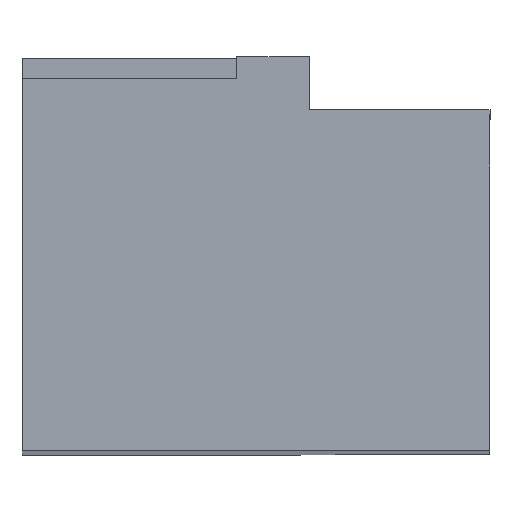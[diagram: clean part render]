
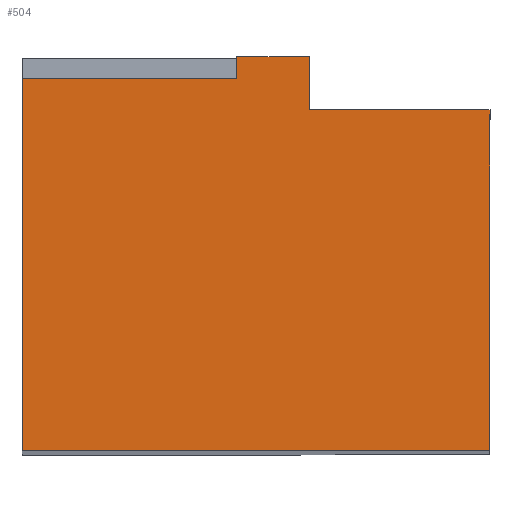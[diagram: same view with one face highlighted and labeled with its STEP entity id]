
A CAD part, top view. The second image highlights one B-rep face of the part: STEP entity #504.
In plain terms, the highlighted planar face has unit normal (0, 0, 1).
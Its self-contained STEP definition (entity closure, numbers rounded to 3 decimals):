
#2 = VERTEX_POINT ( 'NONE', #37 ) ;
#32 = VERTEX_POINT ( 'NONE', #75 ) ;
#36 = VERTEX_POINT ( 'NONE', #77 ) ;
#37 = CARTESIAN_POINT ( 'NONE',  ( 9.5, -1.5, 82.1 ) ) ;
#45 = VERTEX_POINT ( 'NONE', #121 ) ;
#47 = VERTEX_POINT ( 'NONE', #119 ) ;
#54 = VERTEX_POINT ( 'NONE', #112 ) ;
#57 = VERTEX_POINT ( 'NONE', #108 ) ;
#58 = VERTEX_POINT ( 'NONE', #109 ) ;
#75 = CARTESIAN_POINT ( 'NONE',  ( 9.5, 1., 82.1 ) ) ;
#77 = CARTESIAN_POINT ( 'NONE',  ( -4., -17.5, 82.1 ) ) ;
#96 = CARTESIAN_POINT ( 'NONE',  ( 9.5, 1., 82.1 ) ) ;
#108 = CARTESIAN_POINT ( 'NONE',  ( 18., -17.5, 82.1 ) ) ;
#109 = CARTESIAN_POINT ( 'NONE',  ( 18., -1.5, 82.1 ) ) ;
#112 = CARTESIAN_POINT ( 'NONE',  ( 6.1, 0., 82.1 ) ) ;
#119 = CARTESIAN_POINT ( 'NONE',  ( -4., 0., 82.1 ) ) ;
#121 = CARTESIAN_POINT ( 'NONE',  ( 6.1, 1., 82.1 ) ) ;
#123 = DIRECTION ( 'NONE',  ( 0., 1., 0. ) ) ;
#128 = CARTESIAN_POINT ( 'NONE',  ( -4., -17.5, 82.1 ) ) ;
#130 = DIRECTION ( 'NONE',  ( 0., 1., 0. ) ) ;
#140 = DIRECTION ( 'NONE',  ( 0., -1., 0. ) ) ;
#144 = CARTESIAN_POINT ( 'NONE',  ( 18., -1.5, 82.1 ) ) ;
#145 = CARTESIAN_POINT ( 'NONE',  ( 6.1, 1., 82.1 ) ) ;
#148 = DIRECTION ( 'NONE',  ( -1., 0., 0. ) ) ;
#158 = DIRECTION ( 'NONE',  ( 1., 0., 0. ) ) ;
#164 = CARTESIAN_POINT ( 'NONE',  ( 18., -17.5, 82.1 ) ) ;
#211 = CARTESIAN_POINT ( 'NONE',  ( 6.1, -16.5, 82.1 ) ) ;
#212 = DIRECTION ( 'NONE',  ( -1., 0., 0. ) ) ;
#214 = CARTESIAN_POINT ( 'NONE',  ( 6.1, 0., 82.1 ) ) ;
#222 = DIRECTION ( 'NONE',  ( 0., -1., 0. ) ) ;
#253 = AXIS2_PLACEMENT_3D ( 'NONE', #464, #470, #468 ) ;
#254 = EDGE_CURVE ( 'NONE', #2, #32, #880, .T. ) ;
#269 = EDGE_CURVE ( 'NONE', #47, #36, #878, .T. ) ;
#275 = EDGE_CURVE ( 'NONE', #57, #58, #885, .T. ) ;
#279 = EDGE_CURVE ( 'NONE', #32, #45, #572, .T. ) ;
#308 = EDGE_CURVE ( 'NONE', #36, #57, #563, .T. ) ;
#344 = EDGE_CURVE ( 'NONE', #54, #47, #899, .T. ) ;
#346 = EDGE_CURVE ( 'NONE', #45, #54, #571, .T. ) ;
#366 = EDGE_CURVE ( 'NONE', #58, #2, #865, .T. ) ;
#464 = CARTESIAN_POINT ( 'NONE',  ( 18., -17.5, 82.1 ) ) ;
#468 = DIRECTION ( 'NONE',  ( 0., -1., 0. ) ) ;
#469 = PLANE ( 'NONE',  #253 ) ;
#470 = DIRECTION ( 'NONE',  ( 0., 0., -1. ) ) ;
#504 = ADVANCED_FACE ( 'NONE', ( #886 ), #469, .F. ) ;
#543 = DIRECTION ( 'NONE',  ( -1., 0., 0. ) ) ;
#549 = CARTESIAN_POINT ( 'NONE',  ( 9.5, -1.5, 82.1 ) ) ;
#553 = VECTOR ( 'NONE', #212, 1000. ) ;
#563 = LINE ( 'NONE', #164, #587 ) ;
#571 = LINE ( 'NONE', #211, #867 ) ;
#572 = LINE ( 'NONE', #145, #923 ) ;
#575 = VECTOR ( 'NONE', #543, 1000. ) ;
#578 = VECTOR ( 'NONE', #130, 1000. ) ;
#587 = VECTOR ( 'NONE', #158, 1000. ) ;
#618 = ORIENTED_EDGE ( 'NONE', *, *, #269, .T. ) ;
#625 = ORIENTED_EDGE ( 'NONE', *, *, #308, .T. ) ;
#634 = ORIENTED_EDGE ( 'NONE', *, *, #254, .T. ) ;
#638 = ORIENTED_EDGE ( 'NONE', *, *, #275, .T. ) ;
#640 = EDGE_LOOP ( 'NONE', ( #642, #648, #618, #625, #638, #691, #634, #722 ) ) ;
#642 = ORIENTED_EDGE ( 'NONE', *, *, #346, .T. ) ;
#648 = ORIENTED_EDGE ( 'NONE', *, *, #344, .T. ) ;
#691 = ORIENTED_EDGE ( 'NONE', *, *, #366, .T. ) ;
#722 = ORIENTED_EDGE ( 'NONE', *, *, #279, .T. ) ;
#865 = LINE ( 'NONE', #549, #575 ) ;
#867 = VECTOR ( 'NONE', #222, 1000. ) ;
#875 = VECTOR ( 'NONE', #140, 1000. ) ;
#878 = LINE ( 'NONE', #128, #875 ) ;
#880 = LINE ( 'NONE', #96, #919 ) ;
#885 = LINE ( 'NONE', #144, #578 ) ;
#886 = FACE_OUTER_BOUND ( 'NONE', #640, .T. ) ;
#899 = LINE ( 'NONE', #214, #553 ) ;
#919 = VECTOR ( 'NONE', #123, 1000. ) ;
#923 = VECTOR ( 'NONE', #148, 1000. ) ;
